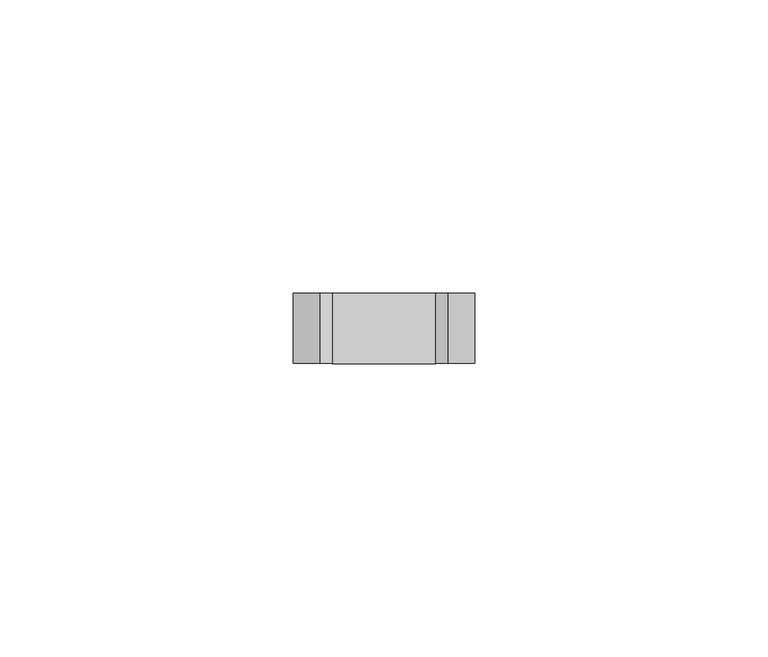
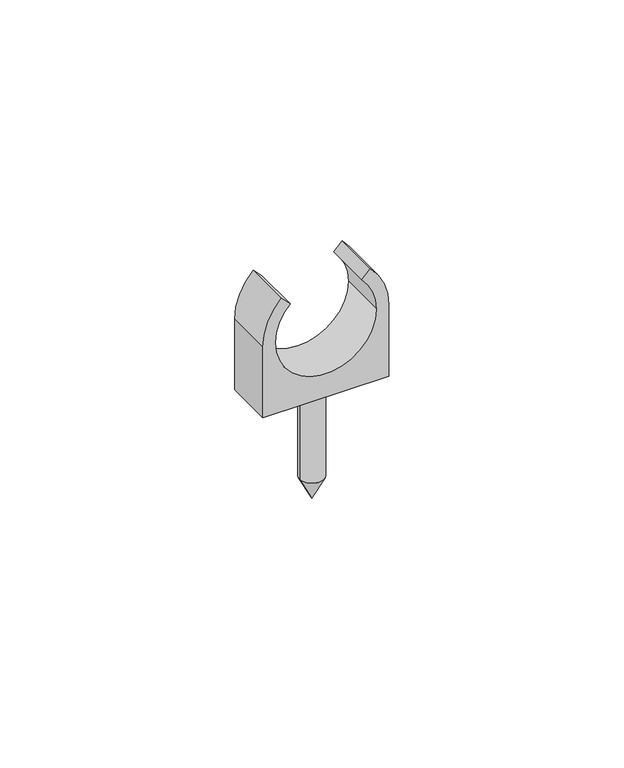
"""IFC4 building model written with IfcOpenShell, lengths in millimetres: cable carrier fitting geometry."""

from ifc_helpers import new_model, si_unit, point, frame, frame_2d, origin, place, context, project, spatial, polyline, circle_curve, trimmed, segment, composite_curve, outline, extrude, source, transform, mapped, element, save
from ifc_brep_helpers import plane_surface, cylinder_surface, revolved_surface, advanced_brep


def cable_carrier_fitting_4c093579(model_context):
    return source(origin(), model_context, "Body", "SolidModel", [
        advanced_brep(
        [(0.0, 0.0, -30.0), (-3.0, 0.0, -24.0), (3.0, 0.0, -24.0), (3.0, 0.0, 0.0), (-3.0, 0.0, 0.0), (0.0, 0.0, 0.0)],
        [
            (0, 1),
            (1, 2, circle_curve(frame((0.0, 0.0, -24.0), z_axis=(0.0, 0.0, -1.0), x_axis=(-1.0, 0.0, 0.0)), 3.0)),
            (2, 0),
            (2, 1, circle_curve(frame((0.0, 0.0, -24.0), z_axis=(0.0, 0.0, -1.0), x_axis=(-1.0, 0.0, 0.0)), 3.0)),
            (3, 4, circle_curve(frame((0.0, 0.0, 0.0), z_axis=(0.0, 0.0, 1.0), x_axis=(-1.0, 0.0, 0.0)), 3.0)),
            (4, 5),
            (5, 3),
            (4, 3, circle_curve(frame((0.0, 0.0, 0.0), z_axis=(0.0, 0.0, 1.0), x_axis=(-1.0, 0.0, 0.0)), 3.0)),
            (1, 4),
            (3, 2),
        ],
        [
            revolved_surface(polyline([(-3.0, 0.0, -24.0), (0.0, 0.0, -30.0)]), (0.0, 0.0, 2622.5581012), (0.0, 0.0, -1.0)),
            plane_surface(frame((0.0, 0.0, 0.0), z_axis=(0.0, 0.0, 1.0), x_axis=(-1.0, 0.0, 0.0))),
            cylinder_surface(frame((0.0, 0.0, 2622.5581012), z_axis=(0.0, 0.0, -1.0), x_axis=(-1.0, 0.0, 0.0)), 3.0),
        ],
        [
            (0, [[1, 2, 3]]),
            (0, [[-3, 4, -1]]),
            (1, [[5, 6, 7]]),
            (1, [[8, -7, -6]]),
            (2, [[-2, 9, -5, 10]]),
            (2, [[-4, -10, -8, -9]]),
        ],
    ),
        extrude(outline(composite_curve([segment(polyline([(0.0, -15.5), (0.0, 15.5), (18.5, 15.5)]), True, "CONTINUOUS"), segment(trimmed(circle_curve(frame_2d((18.5, 0.0)), 15.5), [point((18.5, 15.5))], [point((29.4819376, 10.9383292))], False, "CARTESIAN"), True, "CONTINUOUS"), segment(polyline([(29.4819376, 10.9383292), (27.3564013, 8.8212332)]), True, "CONTINUOUS"), segment(trimmed(circle_curve(frame_2d((18.5, 0.0)), 12.5), [point((27.3564013, 8.8212332))], [point((18.5, 12.5))], True, "CARTESIAN"), True, "CONTINUOUS"), segment(trimmed(circle_curve(frame_2d((18.5, 0.0)), 12.5), [point((18.5, 12.5))], [point((18.5, -12.5))], True, "CARTESIAN"), True, "CONTINUOUS"), segment(trimmed(circle_curve(frame_2d((18.5, 0.0)), 12.5), [point((18.5, -12.5))], [point((27.3564013, -8.8212332))], True, "CARTESIAN"), True, "CONTINUOUS"), segment(polyline([(27.3564013, -8.8212332), (29.4819376, -10.9383292)]), True, "CONTINUOUS"), segment(trimmed(circle_curve(frame_2d((18.5, 0.0)), 15.5), [point((29.4819376, -10.9383292))], [point((18.5, -15.5))], False, "CARTESIAN"), True, "CONTINUOUS"), segment(polyline([(18.5, -15.5), (0.0, -15.5)]), True, "CONTINUOUS")], self_intersect=False)), frame((0.0, -6.0, 0.0), z_axis=(0.0, 1.0, 0.0), x_axis=(0.0, 0.0, 1.0)), (0.0, 0.0, 1.0), 12.0),
    ])


if __name__ == "__main__":
    model = new_model("IFC4")
    model_context = context("Model", 3, world=origin())
    ifc_project = project(units=[si_unit("LENGTHUNIT", "METRE", prefix="MILLI")], contexts=[model_context])
    site = spatial("IfcSite", under=ifc_project)
    building = spatial("IfcBuilding", under=site)
    placement = place(None, origin())
    cable_carrier_fitting_shape = cable_carrier_fitting_4c093579(model_context)
    element("IfcCableCarrierFitting", 1, at=placement, inside=building, context=model_context, shape_type="MappedRepresentation", body=[
        mapped(cable_carrier_fitting_shape, transform((0.0, 0.0, 0.0), x_axis=(1.0, 0.0, 0.0), y_axis=(0.0, 1.0, 0.0), z_axis=(0.0, 0.0, 1.0))),
    ])
    save(model, "model.ifc")
